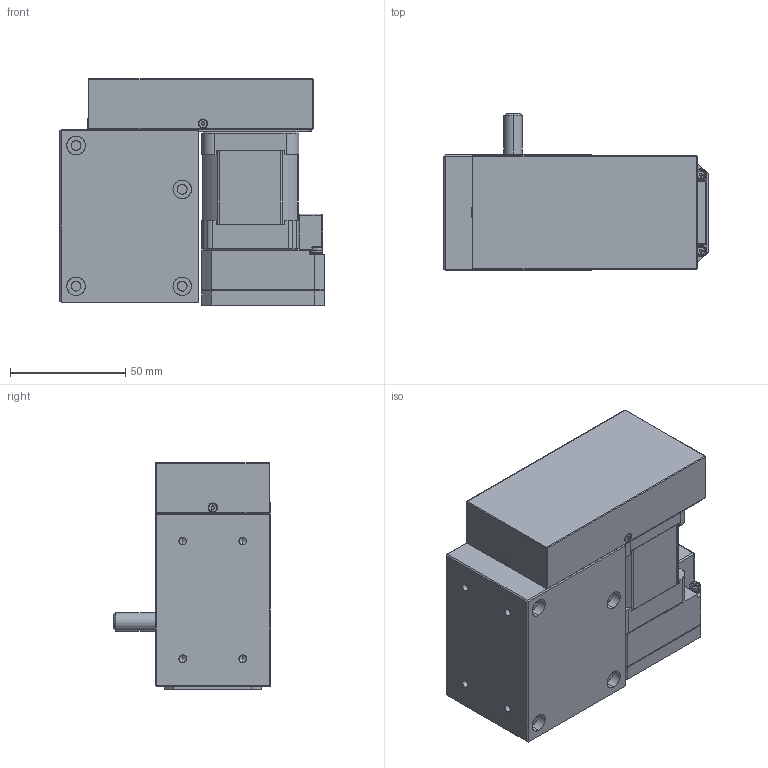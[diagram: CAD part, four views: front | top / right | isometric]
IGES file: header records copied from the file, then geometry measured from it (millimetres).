
Start section: SolidWorks IGES file using analytic representation for surfaces
Global section: file name: \\MYODRIVE\Public\CAD Files\Gearboxes\KyouikuGearMFG\HY-BOXES\HY90R-010\HY090-0X0-17L30-REV4.0.IGS; native system: SolidWorks 2011; preprocessor: SolidWorks 2011; author: render; date: 120718.093817; units: millimetre
Bounding box: 114.5 x 68 x 98.3 mm (x, y, z)
Surface area: 83374.4 mm2 (no closed solid volume)
Topology: 0 solids, 0 shells, 1324 faces, 15586 edges, 15548 vertices
Faces by surface type: bspline 737, revolution 587
